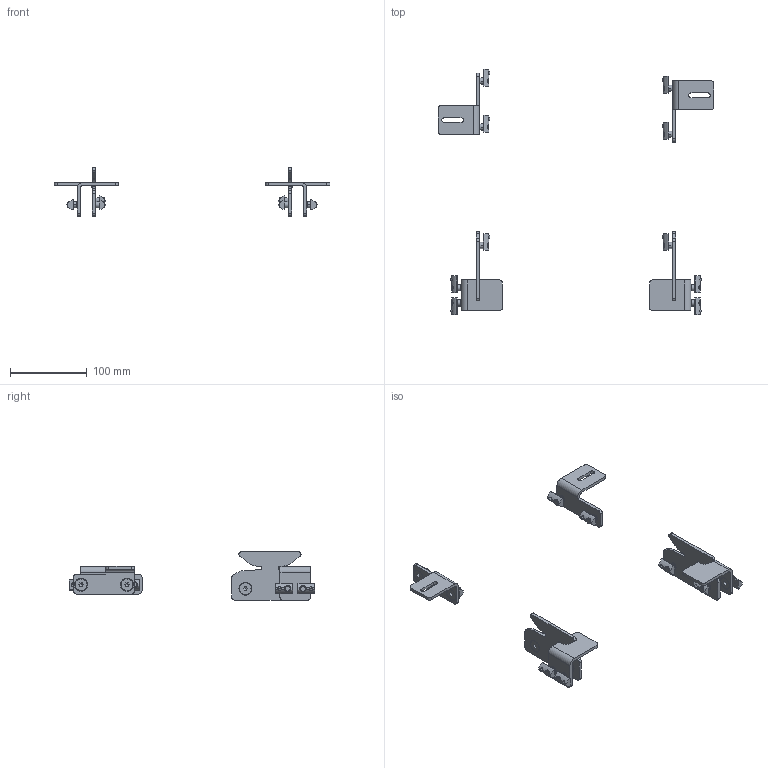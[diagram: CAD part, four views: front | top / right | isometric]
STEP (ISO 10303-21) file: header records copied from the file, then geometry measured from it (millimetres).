
FILE_DESCRIPTION (( 'STEP AP203' ), '1' );
FILE_NAME ('28789_SIAUF8.STEP', '2018-04-27T07:22:06', ( '' ), ( '' ), 'SwSTEP 2.0', 'SolidWorks 2017', '' );
FILE_SCHEMA (( 'CONFIG_CONTROL_DESIGN' ));
Length unit declared in the file: millimetre
Products named in the file (6): socket countersunk head screw_din_DIN 7991 - M8 x 16 --- 7.8N; 28789_SIAUF8; 307017_001_00; 307017_002_00_MIR; 307017_003_00; 096008
Assembly tree (30 placements, depth 2):
  28789_SIAUF8
    307017_001_00  x2
    307017_002_00_MIR  x2
    307017_003_00  x2
    096008  x12
    socket countersunk head screw_din_DIN 7991 - M8 x 16 --- 7.8N  x12
Bounding box: 360 x 320.56 x 63 mm (x, y, z)
Volume: 123268.3 mm3; surface area: 82080.7 mm2
Topology: 42 solids, 42 shells, 740 faces, 1800 edges, 1084 vertices
Faces by surface type: plane 328, cylinder 220, cone 144, bspline 24, torus 24
Entity records: 5598 total; most frequent: CARTESIAN_POINT 898, DIRECTION 780, ORIENTED_EDGE 668, EDGE_CURVE 334, AXIS2_PLACEMENT_3D 291, VERTEX_POINT 217, VECTOR 198, LINE 198
